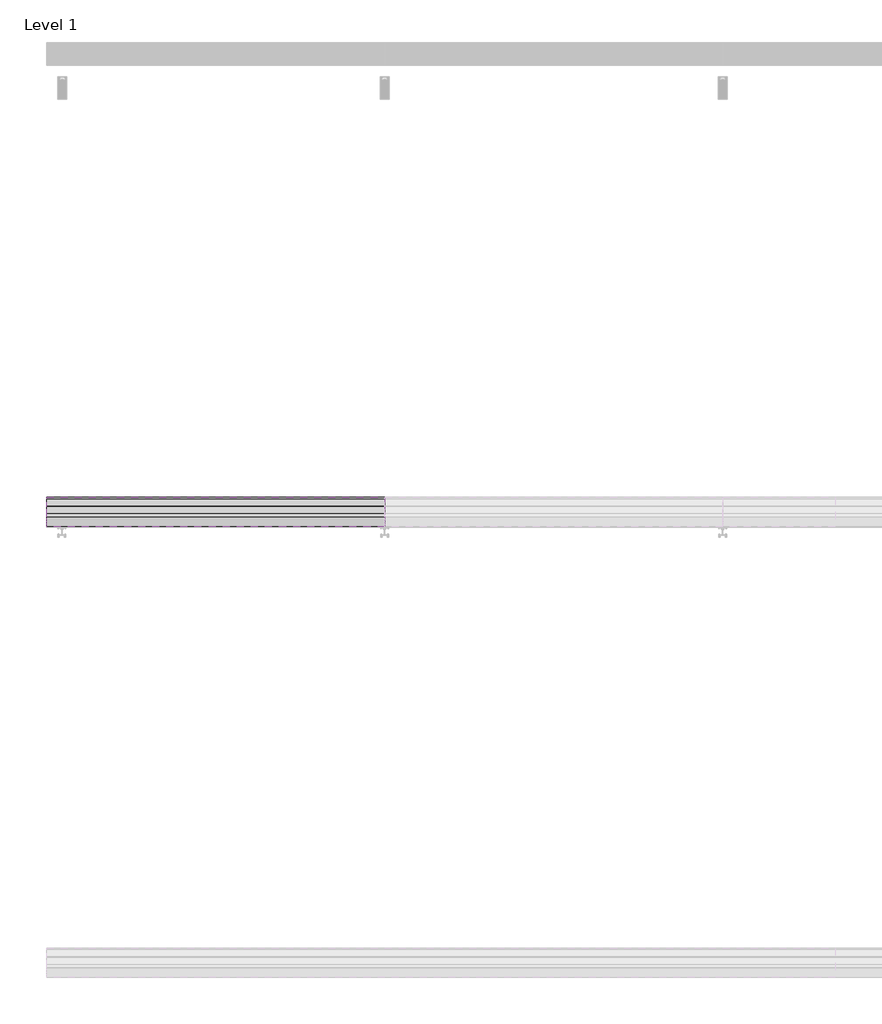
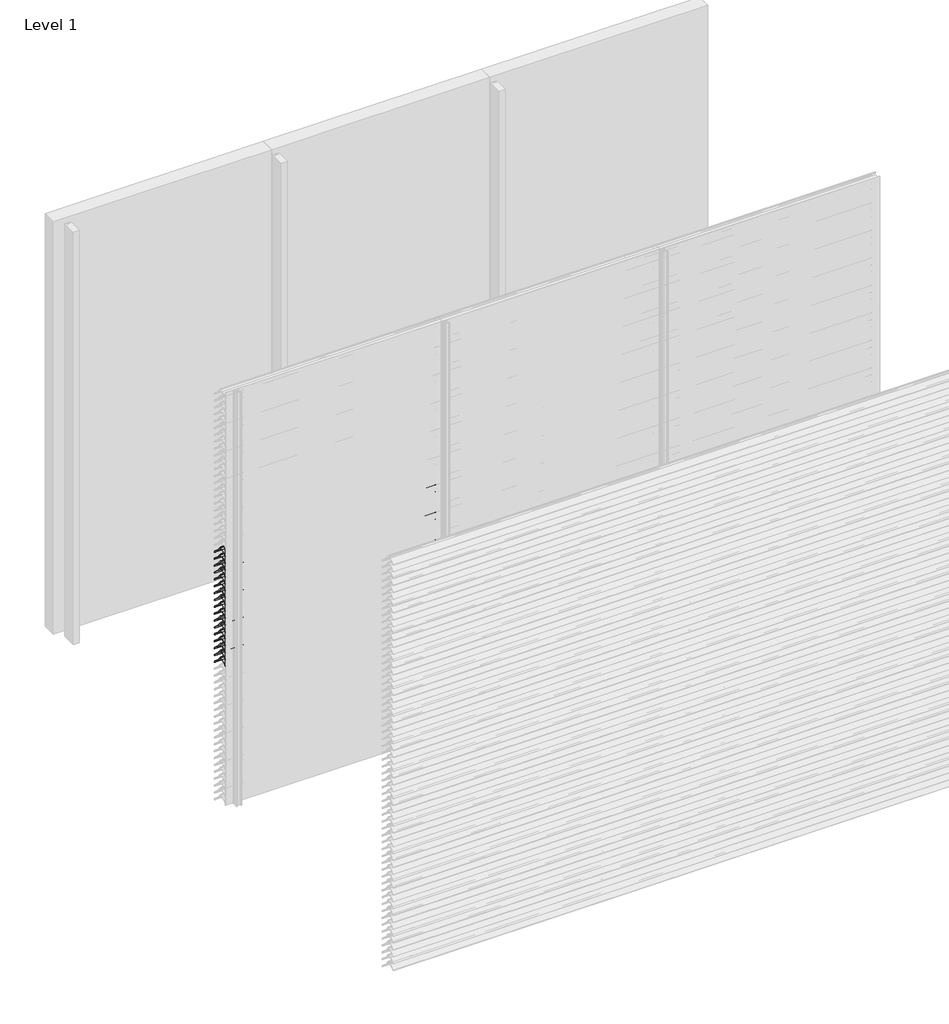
# One storey, part 42 of 173: 17 proxies.
"""IFC4 building model written with IfcOpenShell, lengths in millimetres."""

from ifc_helpers import new_model, si_unit, point, frame, frame_2d, origin, place, context, project, spatial, polyline, circle_curve, trimmed, segment, composite_curve, outline, extrude, element, save

model = new_model("IFC4")

# Units and contexts
model_context = context("Model", 3, world=origin())
ifc_project = project(units=[si_unit("LENGTHUNIT", "METRE", prefix="MILLI")], contexts=[model_context])

# Site, building, storey
site = spatial("IfcSite", under=ifc_project)
building = spatial("IfcBuilding", under=site)
storey = spatial("IfcBuildingStorey", under=building, Name="Level 1", Elevation=0.0)

# Proxies
placement = place(None, origin())
element("IfcBuildingElementProxy", 1, Name="Wall Sweeps", at=placement, inside=storey, context=model_context, shape_type="SweptSolid", body=[
    extrude(outline(composite_curve([segment(polyline([(-41998.0, 1809.1474905), (-41998.0, 1811.6227417)]), True, "CONTINUOUS"), segment(trimmed(circle_curve(frame_2d((-41951.2682172, 1766.2200208)), 65.1557103), [point((-41998.0, 1811.6227417))], [point((-41954.4014323, 1831.3003524))], False, "CARTESIAN"), True, "CONTINUOUS"), segment(polyline([(-41954.4014323, 1831.3003524), (-41934.8315836, 1831.3003524)]), True, "CONTINUOUS"), segment(trimmed(circle_curve(frame_2d((-41732.7329489, 1978.5533172)), 250.0545817), [point((-41934.8315836, 1831.3003524))], [point((-41941.4452143, 1840.8344583))], False, "CARTESIAN"), True, "CONTINUOUS"), segment(trimmed(circle_curve(frame_2d((-41953.2981792, 1835.1737835)), 13.1352966), [point((-41941.4452143, 1840.8344583))], [point((-41953.8171475, 1848.298824))], True, "CARTESIAN"), True, "CONTINUOUS"), segment(polyline([(-41953.8171475, 1848.298824), (-41953.8171475, 1850.0)]), True, "CONTINUOUS"), segment(trimmed(circle_curve(frame_2d((-41953.2981792, 1835.1737835)), 14.8352966), [point((-41953.8171475, 1850.0))], [point((-41939.9637661, 1841.6760487))], False, "CARTESIAN"), True, "CONTINUOUS"), segment(trimmed(circle_curve(frame_2d((-41732.7329489, 1978.5533172)), 248.3545817), [point((-41939.9637661, 1841.6760487))], [point((-41873.8787895, 1774.2059416))], True, "CARTESIAN"), True, "CONTINUOUS"), segment(trimmed(circle_curve(frame_2d((-41883.8147537, 1761.6649442)), 16.0), [point((-41873.8787895, 1774.2059416))], [point((-41867.8648347, 1760.4))], False, "CARTESIAN"), True, "CONTINUOUS"), segment(polyline([(-41867.8648347, 1760.4), (-41869.6712069, 1760.4)]), True, "CONTINUOUS"), segment(trimmed(circle_curve(frame_2d((-41883.8147537, 1761.6649442)), 14.2), [point((-41869.6712069, 1760.4))], [point((-41874.9518628, 1772.7594998))], True, "CARTESIAN"), True, "CONTINUOUS"), segment(trimmed(circle_curve(frame_2d((-41732.7329489, 1978.5533172)), 250.1545817), [point((-41874.9518628, 1772.7594998))], [point((-41933.7064024, 1829.6003524))], False, "CARTESIAN"), True, "CONTINUOUS"), segment(polyline([(-41933.7064024, 1829.6003524), (-41954.3602632, 1829.6003524)]), True, "CONTINUOUS"), segment(trimmed(circle_curve(frame_2d((-41951.2682172, 1766.2200208)), 63.4557103), [point((-41954.3602632, 1829.6003524))], [point((-41998.0, 1809.1474905))], True, "CARTESIAN"), True, "CONTINUOUS")], self_intersect=False)), frame((0.0, 0.0, 0.0), z_axis=(1.0, 0.0, 0.0), x_axis=(0.0, 1.0, 0.0)), (0.0, 0.0, 1.0), 1500.0),
])
element("IfcBuildingElementProxy", 2, Name="Wall Sweeps", at=placement, inside=storey, context=model_context, shape_type="SweptSolid", body=[
    extrude(outline(composite_curve([segment(polyline([(-41998.0, 1759.1474905), (-41998.0, 1761.6227417)]), True, "CONTINUOUS"), segment(trimmed(circle_curve(frame_2d((-41951.2682172, 1716.2200208)), 65.1557103), [point((-41998.0, 1761.6227417))], [point((-41954.4014323, 1781.3003524))], False, "CARTESIAN"), True, "CONTINUOUS"), segment(polyline([(-41954.4014323, 1781.3003524), (-41934.8315836, 1781.3003524)]), True, "CONTINUOUS"), segment(trimmed(circle_curve(frame_2d((-41732.7329489, 1928.5533172)), 250.0545817), [point((-41934.8315836, 1781.3003524))], [point((-41941.4452143, 1790.8344583))], False, "CARTESIAN"), True, "CONTINUOUS"), segment(trimmed(circle_curve(frame_2d((-41953.2981792, 1785.1737835)), 13.1352966), [point((-41941.4452143, 1790.8344583))], [point((-41953.8171475, 1798.298824))], True, "CARTESIAN"), True, "CONTINUOUS"), segment(polyline([(-41953.8171475, 1798.298824), (-41953.8171475, 1800.0)]), True, "CONTINUOUS"), segment(trimmed(circle_curve(frame_2d((-41953.2981792, 1785.1737835)), 14.8352966), [point((-41953.8171475, 1800.0))], [point((-41939.9637661, 1791.6760487))], False, "CARTESIAN"), True, "CONTINUOUS"), segment(trimmed(circle_curve(frame_2d((-41732.7329489, 1928.5533172)), 248.3545817), [point((-41939.9637661, 1791.6760487))], [point((-41873.8787895, 1724.2059416))], True, "CARTESIAN"), True, "CONTINUOUS"), segment(trimmed(circle_curve(frame_2d((-41883.8147537, 1711.6649442)), 16.0), [point((-41873.8787895, 1724.2059416))], [point((-41867.8648347, 1710.4))], False, "CARTESIAN"), True, "CONTINUOUS"), segment(polyline([(-41867.8648347, 1710.4), (-41869.6712069, 1710.4)]), True, "CONTINUOUS"), segment(trimmed(circle_curve(frame_2d((-41883.8147537, 1711.6649442)), 14.2), [point((-41869.6712069, 1710.4))], [point((-41874.9518628, 1722.7594998))], True, "CARTESIAN"), True, "CONTINUOUS"), segment(trimmed(circle_curve(frame_2d((-41732.7329489, 1928.5533172)), 250.1545817), [point((-41874.9518628, 1722.7594998))], [point((-41933.7064024, 1779.6003524))], False, "CARTESIAN"), True, "CONTINUOUS"), segment(polyline([(-41933.7064024, 1779.6003524), (-41954.3602632, 1779.6003524)]), True, "CONTINUOUS"), segment(trimmed(circle_curve(frame_2d((-41951.2682172, 1716.2200208)), 63.4557103), [point((-41954.3602632, 1779.6003524))], [point((-41998.0, 1759.1474905))], True, "CARTESIAN"), True, "CONTINUOUS")], self_intersect=False)), frame((0.0, 0.0, 0.0), z_axis=(1.0, 0.0, 0.0), x_axis=(0.0, 1.0, 0.0)), (0.0, 0.0, 1.0), 1500.0),
])
element("IfcBuildingElementProxy", 3, Name="Wall Sweeps", at=placement, inside=storey, context=model_context, shape_type="SweptSolid", body=[
    extrude(outline(composite_curve([segment(polyline([(-41998.0, 1709.1474905), (-41998.0, 1711.6227417)]), True, "CONTINUOUS"), segment(trimmed(circle_curve(frame_2d((-41951.2682172, 1666.2200208)), 65.1557103), [point((-41998.0, 1711.6227417))], [point((-41954.4014323, 1731.3003524))], False, "CARTESIAN"), True, "CONTINUOUS"), segment(polyline([(-41954.4014323, 1731.3003524), (-41934.8315836, 1731.3003524)]), True, "CONTINUOUS"), segment(trimmed(circle_curve(frame_2d((-41732.7329489, 1878.5533172)), 250.0545817), [point((-41934.8315836, 1731.3003524))], [point((-41941.4452143, 1740.8344583))], False, "CARTESIAN"), True, "CONTINUOUS"), segment(trimmed(circle_curve(frame_2d((-41953.2981792, 1735.1737835)), 13.1352966), [point((-41941.4452143, 1740.8344583))], [point((-41953.8171475, 1748.298824))], True, "CARTESIAN"), True, "CONTINUOUS"), segment(polyline([(-41953.8171475, 1748.298824), (-41953.8171475, 1750.0)]), True, "CONTINUOUS"), segment(trimmed(circle_curve(frame_2d((-41953.2981792, 1735.1737835)), 14.8352966), [point((-41953.8171475, 1750.0))], [point((-41939.9637661, 1741.6760487))], False, "CARTESIAN"), True, "CONTINUOUS"), segment(trimmed(circle_curve(frame_2d((-41732.7329489, 1878.5533172)), 248.3545817), [point((-41939.9637661, 1741.6760487))], [point((-41873.8787895, 1674.2059416))], True, "CARTESIAN"), True, "CONTINUOUS"), segment(trimmed(circle_curve(frame_2d((-41883.8147537, 1661.6649442)), 16.0), [point((-41873.8787895, 1674.2059416))], [point((-41867.8648347, 1660.4))], False, "CARTESIAN"), True, "CONTINUOUS"), segment(polyline([(-41867.8648347, 1660.4), (-41869.6712069, 1660.4)]), True, "CONTINUOUS"), segment(trimmed(circle_curve(frame_2d((-41883.8147537, 1661.6649442)), 14.2), [point((-41869.6712069, 1660.4))], [point((-41874.9518628, 1672.7594998))], True, "CARTESIAN"), True, "CONTINUOUS"), segment(trimmed(circle_curve(frame_2d((-41732.7329489, 1878.5533172)), 250.1545817), [point((-41874.9518628, 1672.7594998))], [point((-41933.7064024, 1729.6003524))], False, "CARTESIAN"), True, "CONTINUOUS"), segment(polyline([(-41933.7064024, 1729.6003524), (-41954.3602632, 1729.6003524)]), True, "CONTINUOUS"), segment(trimmed(circle_curve(frame_2d((-41951.2682172, 1666.2200208)), 63.4557103), [point((-41954.3602632, 1729.6003524))], [point((-41998.0, 1709.1474905))], True, "CARTESIAN"), True, "CONTINUOUS")], self_intersect=False)), frame((0.0, 0.0, 0.0), z_axis=(1.0, 0.0, 0.0), x_axis=(0.0, 1.0, 0.0)), (0.0, 0.0, 1.0), 1500.0),
])
element("IfcBuildingElementProxy", 4, Name="Wall Sweeps", at=placement, inside=storey, context=model_context, shape_type="SweptSolid", body=[
    extrude(outline(composite_curve([segment(polyline([(-41998.0, 1659.1474905), (-41998.0, 1661.6227417)]), True, "CONTINUOUS"), segment(trimmed(circle_curve(frame_2d((-41951.2682172, 1616.2200208)), 65.1557103), [point((-41998.0, 1661.6227417))], [point((-41954.4014323, 1681.3003524))], False, "CARTESIAN"), True, "CONTINUOUS"), segment(polyline([(-41954.4014323, 1681.3003524), (-41934.8315836, 1681.3003524)]), True, "CONTINUOUS"), segment(trimmed(circle_curve(frame_2d((-41732.7329489, 1828.5533172)), 250.0545817), [point((-41934.8315836, 1681.3003524))], [point((-41941.4452143, 1690.8344583))], False, "CARTESIAN"), True, "CONTINUOUS"), segment(trimmed(circle_curve(frame_2d((-41953.2981792, 1685.1737835)), 13.1352966), [point((-41941.4452143, 1690.8344583))], [point((-41953.8171475, 1698.298824))], True, "CARTESIAN"), True, "CONTINUOUS"), segment(polyline([(-41953.8171475, 1698.298824), (-41953.8171475, 1700.0)]), True, "CONTINUOUS"), segment(trimmed(circle_curve(frame_2d((-41953.2981792, 1685.1737835)), 14.8352966), [point((-41953.8171475, 1700.0))], [point((-41939.9637661, 1691.6760487))], False, "CARTESIAN"), True, "CONTINUOUS"), segment(trimmed(circle_curve(frame_2d((-41732.7329489, 1828.5533172)), 248.3545817), [point((-41939.9637661, 1691.6760487))], [point((-41873.8787895, 1624.2059416))], True, "CARTESIAN"), True, "CONTINUOUS"), segment(trimmed(circle_curve(frame_2d((-41883.8147537, 1611.6649442)), 16.0), [point((-41873.8787895, 1624.2059416))], [point((-41867.8648347, 1610.4))], False, "CARTESIAN"), True, "CONTINUOUS"), segment(polyline([(-41867.8648347, 1610.4), (-41869.6712069, 1610.4)]), True, "CONTINUOUS"), segment(trimmed(circle_curve(frame_2d((-41883.8147537, 1611.6649442)), 14.2), [point((-41869.6712069, 1610.4))], [point((-41874.9518628, 1622.7594998))], True, "CARTESIAN"), True, "CONTINUOUS"), segment(trimmed(circle_curve(frame_2d((-41732.7329489, 1828.5533172)), 250.1545817), [point((-41874.9518628, 1622.7594998))], [point((-41933.7064024, 1679.6003524))], False, "CARTESIAN"), True, "CONTINUOUS"), segment(polyline([(-41933.7064024, 1679.6003524), (-41954.3602632, 1679.6003524)]), True, "CONTINUOUS"), segment(trimmed(circle_curve(frame_2d((-41951.2682172, 1616.2200208)), 63.4557103), [point((-41954.3602632, 1679.6003524))], [point((-41998.0, 1659.1474905))], True, "CARTESIAN"), True, "CONTINUOUS")], self_intersect=False)), frame((0.0, 0.0, 0.0), z_axis=(1.0, 0.0, 0.0), x_axis=(0.0, 1.0, 0.0)), (0.0, 0.0, 1.0), 1500.0),
])
element("IfcBuildingElementProxy", 5, Name="Wall Sweeps", at=placement, inside=storey, context=model_context, shape_type="SweptSolid", body=[
    extrude(outline(composite_curve([segment(polyline([(-41998.0, 1609.1474905), (-41998.0, 1611.6227417)]), True, "CONTINUOUS"), segment(trimmed(circle_curve(frame_2d((-41951.2682172, 1566.2200208)), 65.1557103), [point((-41998.0, 1611.6227417))], [point((-41954.4014323, 1631.3003524))], False, "CARTESIAN"), True, "CONTINUOUS"), segment(polyline([(-41954.4014323, 1631.3003524), (-41934.8315836, 1631.3003524)]), True, "CONTINUOUS"), segment(trimmed(circle_curve(frame_2d((-41732.7329489, 1778.5533172)), 250.0545817), [point((-41934.8315836, 1631.3003524))], [point((-41941.4452143, 1640.8344583))], False, "CARTESIAN"), True, "CONTINUOUS"), segment(trimmed(circle_curve(frame_2d((-41953.2981792, 1635.1737835)), 13.1352966), [point((-41941.4452143, 1640.8344583))], [point((-41953.8171475, 1648.298824))], True, "CARTESIAN"), True, "CONTINUOUS"), segment(polyline([(-41953.8171475, 1648.298824), (-41953.8171475, 1650.0)]), True, "CONTINUOUS"), segment(trimmed(circle_curve(frame_2d((-41953.2981792, 1635.1737835)), 14.8352966), [point((-41953.8171475, 1650.0))], [point((-41939.9637661, 1641.6760487))], False, "CARTESIAN"), True, "CONTINUOUS"), segment(trimmed(circle_curve(frame_2d((-41732.7329489, 1778.5533172)), 248.3545817), [point((-41939.9637661, 1641.6760487))], [point((-41873.8787895, 1574.2059416))], True, "CARTESIAN"), True, "CONTINUOUS"), segment(trimmed(circle_curve(frame_2d((-41883.8147537, 1561.6649442)), 16.0), [point((-41873.8787895, 1574.2059416))], [point((-41867.8648347, 1560.4))], False, "CARTESIAN"), True, "CONTINUOUS"), segment(polyline([(-41867.8648347, 1560.4), (-41869.6712069, 1560.4)]), True, "CONTINUOUS"), segment(trimmed(circle_curve(frame_2d((-41883.8147537, 1561.6649442)), 14.2), [point((-41869.6712069, 1560.4))], [point((-41874.9518628, 1572.7594998))], True, "CARTESIAN"), True, "CONTINUOUS"), segment(trimmed(circle_curve(frame_2d((-41732.7329489, 1778.5533172)), 250.1545817), [point((-41874.9518628, 1572.7594998))], [point((-41933.7064024, 1629.6003524))], False, "CARTESIAN"), True, "CONTINUOUS"), segment(polyline([(-41933.7064024, 1629.6003524), (-41954.3602632, 1629.6003524)]), True, "CONTINUOUS"), segment(trimmed(circle_curve(frame_2d((-41951.2682172, 1566.2200208)), 63.4557103), [point((-41954.3602632, 1629.6003524))], [point((-41998.0, 1609.1474905))], True, "CARTESIAN"), True, "CONTINUOUS")], self_intersect=False)), frame((0.0, 0.0, 0.0), z_axis=(1.0, 0.0, 0.0), x_axis=(0.0, 1.0, 0.0)), (0.0, 0.0, 1.0), 1500.0),
])
element("IfcBuildingElementProxy", 6, Name="Wall Sweeps", at=placement, inside=storey, context=model_context, shape_type="SweptSolid", body=[
    extrude(outline(composite_curve([segment(polyline([(-41998.0, 1559.1474905), (-41998.0, 1561.6227417)]), True, "CONTINUOUS"), segment(trimmed(circle_curve(frame_2d((-41951.2682172, 1516.2200208)), 65.1557103), [point((-41998.0, 1561.6227417))], [point((-41954.4014323, 1581.3003524))], False, "CARTESIAN"), True, "CONTINUOUS"), segment(polyline([(-41954.4014323, 1581.3003524), (-41934.8315836, 1581.3003524)]), True, "CONTINUOUS"), segment(trimmed(circle_curve(frame_2d((-41732.7329489, 1728.5533172)), 250.0545817), [point((-41934.8315836, 1581.3003524))], [point((-41941.4452143, 1590.8344583))], False, "CARTESIAN"), True, "CONTINUOUS"), segment(trimmed(circle_curve(frame_2d((-41953.2981792, 1585.1737835)), 13.1352966), [point((-41941.4452143, 1590.8344583))], [point((-41953.8171475, 1598.298824))], True, "CARTESIAN"), True, "CONTINUOUS"), segment(polyline([(-41953.8171475, 1598.298824), (-41953.8171475, 1600.0)]), True, "CONTINUOUS"), segment(trimmed(circle_curve(frame_2d((-41953.2981792, 1585.1737835)), 14.8352966), [point((-41953.8171475, 1600.0))], [point((-41939.9637661, 1591.6760487))], False, "CARTESIAN"), True, "CONTINUOUS"), segment(trimmed(circle_curve(frame_2d((-41732.7329489, 1728.5533172)), 248.3545817), [point((-41939.9637661, 1591.6760487))], [point((-41873.8787895, 1524.2059416))], True, "CARTESIAN"), True, "CONTINUOUS"), segment(trimmed(circle_curve(frame_2d((-41883.8147537, 1511.6649442)), 16.0), [point((-41873.8787895, 1524.2059416))], [point((-41867.8648347, 1510.4))], False, "CARTESIAN"), True, "CONTINUOUS"), segment(polyline([(-41867.8648347, 1510.4), (-41869.6712069, 1510.4)]), True, "CONTINUOUS"), segment(trimmed(circle_curve(frame_2d((-41883.8147537, 1511.6649442)), 14.2), [point((-41869.6712069, 1510.4))], [point((-41874.9518628, 1522.7594998))], True, "CARTESIAN"), True, "CONTINUOUS"), segment(trimmed(circle_curve(frame_2d((-41732.7329489, 1728.5533172)), 250.1545817), [point((-41874.9518628, 1522.7594998))], [point((-41933.7064024, 1579.6003524))], False, "CARTESIAN"), True, "CONTINUOUS"), segment(polyline([(-41933.7064024, 1579.6003524), (-41954.3602632, 1579.6003524)]), True, "CONTINUOUS"), segment(trimmed(circle_curve(frame_2d((-41951.2682172, 1516.2200208)), 63.4557103), [point((-41954.3602632, 1579.6003524))], [point((-41998.0, 1559.1474905))], True, "CARTESIAN"), True, "CONTINUOUS")], self_intersect=False)), frame((0.0, 0.0, 0.0), z_axis=(1.0, 0.0, 0.0), x_axis=(0.0, 1.0, 0.0)), (0.0, 0.0, 1.0), 1500.0),
])
element("IfcBuildingElementProxy", 7, Name="Wall Sweeps", at=placement, inside=storey, context=model_context, shape_type="SweptSolid", body=[
    extrude(outline(composite_curve([segment(polyline([(-41998.0, 1509.1474905), (-41998.0, 1511.6227417)]), True, "CONTINUOUS"), segment(trimmed(circle_curve(frame_2d((-41951.2682172, 1466.2200208)), 65.1557103), [point((-41998.0, 1511.6227417))], [point((-41954.4014323, 1531.3003524))], False, "CARTESIAN"), True, "CONTINUOUS"), segment(polyline([(-41954.4014323, 1531.3003524), (-41934.8315836, 1531.3003524)]), True, "CONTINUOUS"), segment(trimmed(circle_curve(frame_2d((-41732.7329489, 1678.5533172)), 250.0545817), [point((-41934.8315836, 1531.3003524))], [point((-41941.4452143, 1540.8344583))], False, "CARTESIAN"), True, "CONTINUOUS"), segment(trimmed(circle_curve(frame_2d((-41953.2981792, 1535.1737835)), 13.1352966), [point((-41941.4452143, 1540.8344583))], [point((-41953.8171475, 1548.298824))], True, "CARTESIAN"), True, "CONTINUOUS"), segment(polyline([(-41953.8171475, 1548.298824), (-41953.8171475, 1550.0)]), True, "CONTINUOUS"), segment(trimmed(circle_curve(frame_2d((-41953.2981792, 1535.1737835)), 14.8352966), [point((-41953.8171475, 1550.0))], [point((-41939.9637661, 1541.6760487))], False, "CARTESIAN"), True, "CONTINUOUS"), segment(trimmed(circle_curve(frame_2d((-41732.7329489, 1678.5533172)), 248.3545817), [point((-41939.9637661, 1541.6760487))], [point((-41873.8787895, 1474.2059416))], True, "CARTESIAN"), True, "CONTINUOUS"), segment(trimmed(circle_curve(frame_2d((-41883.8147537, 1461.6649442)), 16.0), [point((-41873.8787895, 1474.2059416))], [point((-41867.8648347, 1460.4))], False, "CARTESIAN"), True, "CONTINUOUS"), segment(polyline([(-41867.8648347, 1460.4), (-41869.6712069, 1460.4)]), True, "CONTINUOUS"), segment(trimmed(circle_curve(frame_2d((-41883.8147537, 1461.6649442)), 14.2), [point((-41869.6712069, 1460.4))], [point((-41874.9518628, 1472.7594998))], True, "CARTESIAN"), True, "CONTINUOUS"), segment(trimmed(circle_curve(frame_2d((-41732.7329489, 1678.5533172)), 250.1545817), [point((-41874.9518628, 1472.7594998))], [point((-41933.7064024, 1529.6003524))], False, "CARTESIAN"), True, "CONTINUOUS"), segment(polyline([(-41933.7064024, 1529.6003524), (-41954.3602632, 1529.6003524)]), True, "CONTINUOUS"), segment(trimmed(circle_curve(frame_2d((-41951.2682172, 1466.2200208)), 63.4557103), [point((-41954.3602632, 1529.6003524))], [point((-41998.0, 1509.1474905))], True, "CARTESIAN"), True, "CONTINUOUS")], self_intersect=False)), frame((0.0, 0.0, 0.0), z_axis=(1.0, 0.0, 0.0), x_axis=(0.0, 1.0, 0.0)), (0.0, 0.0, 1.0), 1500.0),
])
element("IfcBuildingElementProxy", 8, Name="Wall Sweeps", at=placement, inside=storey, context=model_context, shape_type="SweptSolid", body=[
    extrude(outline(composite_curve([segment(polyline([(-41998.0, 1459.1474905), (-41998.0, 1461.6227417)]), True, "CONTINUOUS"), segment(trimmed(circle_curve(frame_2d((-41951.2682172, 1416.2200208)), 65.1557103), [point((-41998.0, 1461.6227417))], [point((-41954.4014323, 1481.3003524))], False, "CARTESIAN"), True, "CONTINUOUS"), segment(polyline([(-41954.4014323, 1481.3003524), (-41934.8315836, 1481.3003524)]), True, "CONTINUOUS"), segment(trimmed(circle_curve(frame_2d((-41732.7329489, 1628.5533172)), 250.0545817), [point((-41934.8315836, 1481.3003524))], [point((-41941.4452143, 1490.8344583))], False, "CARTESIAN"), True, "CONTINUOUS"), segment(trimmed(circle_curve(frame_2d((-41953.2981792, 1485.1737835)), 13.1352966), [point((-41941.4452143, 1490.8344583))], [point((-41953.8171475, 1498.298824))], True, "CARTESIAN"), True, "CONTINUOUS"), segment(polyline([(-41953.8171475, 1498.298824), (-41953.8171475, 1500.0)]), True, "CONTINUOUS"), segment(trimmed(circle_curve(frame_2d((-41953.2981792, 1485.1737835)), 14.8352966), [point((-41953.8171475, 1500.0))], [point((-41939.9637661, 1491.6760487))], False, "CARTESIAN"), True, "CONTINUOUS"), segment(trimmed(circle_curve(frame_2d((-41732.7329489, 1628.5533172)), 248.3545817), [point((-41939.9637661, 1491.6760487))], [point((-41873.8787895, 1424.2059416))], True, "CARTESIAN"), True, "CONTINUOUS"), segment(trimmed(circle_curve(frame_2d((-41883.8147537, 1411.6649442)), 16.0), [point((-41873.8787895, 1424.2059416))], [point((-41867.8648347, 1410.4))], False, "CARTESIAN"), True, "CONTINUOUS"), segment(polyline([(-41867.8648347, 1410.4), (-41869.6712069, 1410.4)]), True, "CONTINUOUS"), segment(trimmed(circle_curve(frame_2d((-41883.8147537, 1411.6649442)), 14.2), [point((-41869.6712069, 1410.4))], [point((-41874.9518628, 1422.7594998))], True, "CARTESIAN"), True, "CONTINUOUS"), segment(trimmed(circle_curve(frame_2d((-41732.7329489, 1628.5533172)), 250.1545817), [point((-41874.9518628, 1422.7594998))], [point((-41933.7064024, 1479.6003524))], False, "CARTESIAN"), True, "CONTINUOUS"), segment(polyline([(-41933.7064024, 1479.6003524), (-41954.3602632, 1479.6003524)]), True, "CONTINUOUS"), segment(trimmed(circle_curve(frame_2d((-41951.2682172, 1416.2200208)), 63.4557103), [point((-41954.3602632, 1479.6003524))], [point((-41998.0, 1459.1474905))], True, "CARTESIAN"), True, "CONTINUOUS")], self_intersect=False)), frame((0.0, 0.0, 0.0), z_axis=(1.0, 0.0, 0.0), x_axis=(0.0, 1.0, 0.0)), (0.0, 0.0, 1.0), 1500.0),
])
element("IfcBuildingElementProxy", 9, Name="Wall Sweeps", at=placement, inside=storey, context=model_context, shape_type="SweptSolid", body=[
    extrude(outline(composite_curve([segment(polyline([(-41998.0, 1409.1474905), (-41998.0, 1411.6227417)]), True, "CONTINUOUS"), segment(trimmed(circle_curve(frame_2d((-41951.2682172, 1366.2200208)), 65.1557103), [point((-41998.0, 1411.6227417))], [point((-41954.4014323, 1431.3003524))], False, "CARTESIAN"), True, "CONTINUOUS"), segment(polyline([(-41954.4014323, 1431.3003524), (-41934.8315836, 1431.3003524)]), True, "CONTINUOUS"), segment(trimmed(circle_curve(frame_2d((-41732.7329489, 1578.5533172)), 250.0545817), [point((-41934.8315836, 1431.3003524))], [point((-41941.4452143, 1440.8344583))], False, "CARTESIAN"), True, "CONTINUOUS"), segment(trimmed(circle_curve(frame_2d((-41953.2981792, 1435.1737835)), 13.1352966), [point((-41941.4452143, 1440.8344583))], [point((-41953.8171475, 1448.298824))], True, "CARTESIAN"), True, "CONTINUOUS"), segment(polyline([(-41953.8171475, 1448.298824), (-41953.8171475, 1450.0)]), True, "CONTINUOUS"), segment(trimmed(circle_curve(frame_2d((-41953.2981792, 1435.1737835)), 14.8352966), [point((-41953.8171475, 1450.0))], [point((-41939.9637661, 1441.6760487))], False, "CARTESIAN"), True, "CONTINUOUS"), segment(trimmed(circle_curve(frame_2d((-41732.7329489, 1578.5533172)), 248.3545817), [point((-41939.9637661, 1441.6760487))], [point((-41873.8787895, 1374.2059416))], True, "CARTESIAN"), True, "CONTINUOUS"), segment(trimmed(circle_curve(frame_2d((-41883.8147537, 1361.6649442)), 16.0), [point((-41873.8787895, 1374.2059416))], [point((-41867.8648347, 1360.4))], False, "CARTESIAN"), True, "CONTINUOUS"), segment(polyline([(-41867.8648347, 1360.4), (-41869.6712069, 1360.4)]), True, "CONTINUOUS"), segment(trimmed(circle_curve(frame_2d((-41883.8147537, 1361.6649442)), 14.2), [point((-41869.6712069, 1360.4))], [point((-41874.9518628, 1372.7594998))], True, "CARTESIAN"), True, "CONTINUOUS"), segment(trimmed(circle_curve(frame_2d((-41732.7329489, 1578.5533172)), 250.1545817), [point((-41874.9518628, 1372.7594998))], [point((-41933.7064024, 1429.6003524))], False, "CARTESIAN"), True, "CONTINUOUS"), segment(polyline([(-41933.7064024, 1429.6003524), (-41954.3602632, 1429.6003524)]), True, "CONTINUOUS"), segment(trimmed(circle_curve(frame_2d((-41951.2682172, 1366.2200208)), 63.4557103), [point((-41954.3602632, 1429.6003524))], [point((-41998.0, 1409.1474905))], True, "CARTESIAN"), True, "CONTINUOUS")], self_intersect=False)), frame((0.0, 0.0, 0.0), z_axis=(1.0, 0.0, 0.0), x_axis=(0.0, 1.0, 0.0)), (0.0, 0.0, 1.0), 1500.0),
])
element("IfcBuildingElementProxy", 10, Name="Wall Sweeps", at=placement, inside=storey, context=model_context, shape_type="SweptSolid", body=[
    extrude(outline(composite_curve([segment(polyline([(-41998.0, 1359.1474905), (-41998.0, 1361.6227417)]), True, "CONTINUOUS"), segment(trimmed(circle_curve(frame_2d((-41951.2682172, 1316.2200208)), 65.1557103), [point((-41998.0, 1361.6227417))], [point((-41954.4014323, 1381.3003524))], False, "CARTESIAN"), True, "CONTINUOUS"), segment(polyline([(-41954.4014323, 1381.3003524), (-41934.8315836, 1381.3003524)]), True, "CONTINUOUS"), segment(trimmed(circle_curve(frame_2d((-41732.7329489, 1528.5533172)), 250.0545817), [point((-41934.8315836, 1381.3003524))], [point((-41941.4452143, 1390.8344583))], False, "CARTESIAN"), True, "CONTINUOUS"), segment(trimmed(circle_curve(frame_2d((-41953.2981792, 1385.1737835)), 13.1352966), [point((-41941.4452143, 1390.8344583))], [point((-41953.8171475, 1398.298824))], True, "CARTESIAN"), True, "CONTINUOUS"), segment(polyline([(-41953.8171475, 1398.298824), (-41953.8171475, 1400.0)]), True, "CONTINUOUS"), segment(trimmed(circle_curve(frame_2d((-41953.2981792, 1385.1737835)), 14.8352966), [point((-41953.8171475, 1400.0))], [point((-41939.9637661, 1391.6760487))], False, "CARTESIAN"), True, "CONTINUOUS"), segment(trimmed(circle_curve(frame_2d((-41732.7329489, 1528.5533172)), 248.3545817), [point((-41939.9637661, 1391.6760487))], [point((-41873.8787895, 1324.2059416))], True, "CARTESIAN"), True, "CONTINUOUS"), segment(trimmed(circle_curve(frame_2d((-41883.8147537, 1311.6649442)), 16.0), [point((-41873.8787895, 1324.2059416))], [point((-41867.8648347, 1310.4))], False, "CARTESIAN"), True, "CONTINUOUS"), segment(polyline([(-41867.8648347, 1310.4), (-41869.6712069, 1310.4)]), True, "CONTINUOUS"), segment(trimmed(circle_curve(frame_2d((-41883.8147537, 1311.6649442)), 14.2), [point((-41869.6712069, 1310.4))], [point((-41874.9518628, 1322.7594998))], True, "CARTESIAN"), True, "CONTINUOUS"), segment(trimmed(circle_curve(frame_2d((-41732.7329489, 1528.5533172)), 250.1545817), [point((-41874.9518628, 1322.7594998))], [point((-41933.7064024, 1379.6003524))], False, "CARTESIAN"), True, "CONTINUOUS"), segment(polyline([(-41933.7064024, 1379.6003524), (-41954.3602632, 1379.6003524)]), True, "CONTINUOUS"), segment(trimmed(circle_curve(frame_2d((-41951.2682172, 1316.2200208)), 63.4557103), [point((-41954.3602632, 1379.6003524))], [point((-41998.0, 1359.1474905))], True, "CARTESIAN"), True, "CONTINUOUS")], self_intersect=False)), frame((0.0, 0.0, 0.0), z_axis=(1.0, 0.0, 0.0), x_axis=(0.0, 1.0, 0.0)), (0.0, 0.0, 1.0), 1500.0),
])
element("IfcBuildingElementProxy", 11, Name="Wall Sweeps", at=placement, inside=storey, context=model_context, shape_type="SweptSolid", body=[
    extrude(outline(composite_curve([segment(polyline([(-41998.0, 1309.1474905), (-41998.0, 1311.6227417)]), True, "CONTINUOUS"), segment(trimmed(circle_curve(frame_2d((-41951.2682172, 1266.2200208)), 65.1557103), [point((-41998.0, 1311.6227417))], [point((-41954.4014323, 1331.3003524))], False, "CARTESIAN"), True, "CONTINUOUS"), segment(polyline([(-41954.4014323, 1331.3003524), (-41934.8315836, 1331.3003524)]), True, "CONTINUOUS"), segment(trimmed(circle_curve(frame_2d((-41732.7329489, 1478.5533172)), 250.0545817), [point((-41934.8315836, 1331.3003524))], [point((-41941.4452143, 1340.8344583))], False, "CARTESIAN"), True, "CONTINUOUS"), segment(trimmed(circle_curve(frame_2d((-41953.2981792, 1335.1737835)), 13.1352966), [point((-41941.4452143, 1340.8344583))], [point((-41953.8171475, 1348.298824))], True, "CARTESIAN"), True, "CONTINUOUS"), segment(polyline([(-41953.8171475, 1348.298824), (-41953.8171475, 1350.0)]), True, "CONTINUOUS"), segment(trimmed(circle_curve(frame_2d((-41953.2981792, 1335.1737835)), 14.8352966), [point((-41953.8171475, 1350.0))], [point((-41939.9637661, 1341.6760487))], False, "CARTESIAN"), True, "CONTINUOUS"), segment(trimmed(circle_curve(frame_2d((-41732.7329489, 1478.5533172)), 248.3545817), [point((-41939.9637661, 1341.6760487))], [point((-41873.8787895, 1274.2059416))], True, "CARTESIAN"), True, "CONTINUOUS"), segment(trimmed(circle_curve(frame_2d((-41883.8147537, 1261.6649442)), 16.0), [point((-41873.8787895, 1274.2059416))], [point((-41867.8648347, 1260.4))], False, "CARTESIAN"), True, "CONTINUOUS"), segment(polyline([(-41867.8648347, 1260.4), (-41869.6712069, 1260.4)]), True, "CONTINUOUS"), segment(trimmed(circle_curve(frame_2d((-41883.8147537, 1261.6649442)), 14.2), [point((-41869.6712069, 1260.4))], [point((-41874.9518628, 1272.7594998))], True, "CARTESIAN"), True, "CONTINUOUS"), segment(trimmed(circle_curve(frame_2d((-41732.7329489, 1478.5533172)), 250.1545817), [point((-41874.9518628, 1272.7594998))], [point((-41933.7064024, 1329.6003524))], False, "CARTESIAN"), True, "CONTINUOUS"), segment(polyline([(-41933.7064024, 1329.6003524), (-41954.3602632, 1329.6003524)]), True, "CONTINUOUS"), segment(trimmed(circle_curve(frame_2d((-41951.2682172, 1266.2200208)), 63.4557103), [point((-41954.3602632, 1329.6003524))], [point((-41998.0, 1309.1474905))], True, "CARTESIAN"), True, "CONTINUOUS")], self_intersect=False)), frame((0.0, 0.0, 0.0), z_axis=(1.0, 0.0, 0.0), x_axis=(0.0, 1.0, 0.0)), (0.0, 0.0, 1.0), 1500.0),
])
element("IfcBuildingElementProxy", 12, Name="Wall Sweeps", at=placement, inside=storey, context=model_context, shape_type="SweptSolid", body=[
    extrude(outline(composite_curve([segment(polyline([(-41998.0, 1259.1474905), (-41998.0, 1261.6227417)]), True, "CONTINUOUS"), segment(trimmed(circle_curve(frame_2d((-41951.2682172, 1216.2200208)), 65.1557103), [point((-41998.0, 1261.6227417))], [point((-41954.4014323, 1281.3003524))], False, "CARTESIAN"), True, "CONTINUOUS"), segment(polyline([(-41954.4014323, 1281.3003524), (-41934.8315836, 1281.3003524)]), True, "CONTINUOUS"), segment(trimmed(circle_curve(frame_2d((-41732.7329489, 1428.5533172)), 250.0545817), [point((-41934.8315836, 1281.3003524))], [point((-41941.4452143, 1290.8344583))], False, "CARTESIAN"), True, "CONTINUOUS"), segment(trimmed(circle_curve(frame_2d((-41953.2981792, 1285.1737835)), 13.1352966), [point((-41941.4452143, 1290.8344583))], [point((-41953.8171475, 1298.298824))], True, "CARTESIAN"), True, "CONTINUOUS"), segment(polyline([(-41953.8171475, 1298.298824), (-41953.8171475, 1300.0)]), True, "CONTINUOUS"), segment(trimmed(circle_curve(frame_2d((-41953.2981792, 1285.1737835)), 14.8352966), [point((-41953.8171475, 1300.0))], [point((-41939.9637661, 1291.6760487))], False, "CARTESIAN"), True, "CONTINUOUS"), segment(trimmed(circle_curve(frame_2d((-41732.7329489, 1428.5533172)), 248.3545817), [point((-41939.9637661, 1291.6760487))], [point((-41873.8787895, 1224.2059416))], True, "CARTESIAN"), True, "CONTINUOUS"), segment(trimmed(circle_curve(frame_2d((-41883.8147537, 1211.6649442)), 16.0), [point((-41873.8787895, 1224.2059416))], [point((-41867.8648347, 1210.4))], False, "CARTESIAN"), True, "CONTINUOUS"), segment(polyline([(-41867.8648347, 1210.4), (-41869.6712069, 1210.4)]), True, "CONTINUOUS"), segment(trimmed(circle_curve(frame_2d((-41883.8147537, 1211.6649442)), 14.2), [point((-41869.6712069, 1210.4))], [point((-41874.9518628, 1222.7594998))], True, "CARTESIAN"), True, "CONTINUOUS"), segment(trimmed(circle_curve(frame_2d((-41732.7329489, 1428.5533172)), 250.1545817), [point((-41874.9518628, 1222.7594998))], [point((-41933.7064024, 1279.6003524))], False, "CARTESIAN"), True, "CONTINUOUS"), segment(polyline([(-41933.7064024, 1279.6003524), (-41954.3602632, 1279.6003524)]), True, "CONTINUOUS"), segment(trimmed(circle_curve(frame_2d((-41951.2682172, 1216.2200208)), 63.4557103), [point((-41954.3602632, 1279.6003524))], [point((-41998.0, 1259.1474905))], True, "CARTESIAN"), True, "CONTINUOUS")], self_intersect=False)), frame((0.0, 0.0, 0.0), z_axis=(1.0, 0.0, 0.0), x_axis=(0.0, 1.0, 0.0)), (0.0, 0.0, 1.0), 1500.0),
])
element("IfcBuildingElementProxy", 13, Name="Wall Sweeps", at=placement, inside=storey, context=model_context, shape_type="SweptSolid", body=[
    extrude(outline(composite_curve([segment(polyline([(-41998.0, 1209.1474905), (-41998.0, 1211.6227417)]), True, "CONTINUOUS"), segment(trimmed(circle_curve(frame_2d((-41951.2682172, 1166.2200208)), 65.1557103), [point((-41998.0, 1211.6227417))], [point((-41954.4014323, 1231.3003524))], False, "CARTESIAN"), True, "CONTINUOUS"), segment(polyline([(-41954.4014323, 1231.3003524), (-41934.8315836, 1231.3003524)]), True, "CONTINUOUS"), segment(trimmed(circle_curve(frame_2d((-41732.7329489, 1378.5533172)), 250.0545817), [point((-41934.8315836, 1231.3003524))], [point((-41941.4452143, 1240.8344583))], False, "CARTESIAN"), True, "CONTINUOUS"), segment(trimmed(circle_curve(frame_2d((-41953.2981792, 1235.1737835)), 13.1352966), [point((-41941.4452143, 1240.8344583))], [point((-41953.8171475, 1248.298824))], True, "CARTESIAN"), True, "CONTINUOUS"), segment(polyline([(-41953.8171475, 1248.298824), (-41953.8171475, 1250.0)]), True, "CONTINUOUS"), segment(trimmed(circle_curve(frame_2d((-41953.2981792, 1235.1737835)), 14.8352966), [point((-41953.8171475, 1250.0))], [point((-41939.9637661, 1241.6760487))], False, "CARTESIAN"), True, "CONTINUOUS"), segment(trimmed(circle_curve(frame_2d((-41732.7329489, 1378.5533172)), 248.3545817), [point((-41939.9637661, 1241.6760487))], [point((-41873.8787895, 1174.2059416))], True, "CARTESIAN"), True, "CONTINUOUS"), segment(trimmed(circle_curve(frame_2d((-41883.8147537, 1161.6649442)), 16.0), [point((-41873.8787895, 1174.2059416))], [point((-41867.8648347, 1160.4))], False, "CARTESIAN"), True, "CONTINUOUS"), segment(polyline([(-41867.8648347, 1160.4), (-41869.6712069, 1160.4)]), True, "CONTINUOUS"), segment(trimmed(circle_curve(frame_2d((-41883.8147537, 1161.6649442)), 14.2), [point((-41869.6712069, 1160.4))], [point((-41874.9518628, 1172.7594998))], True, "CARTESIAN"), True, "CONTINUOUS"), segment(trimmed(circle_curve(frame_2d((-41732.7329489, 1378.5533172)), 250.1545817), [point((-41874.9518628, 1172.7594998))], [point((-41933.7064024, 1229.6003524))], False, "CARTESIAN"), True, "CONTINUOUS"), segment(polyline([(-41933.7064024, 1229.6003524), (-41954.3602632, 1229.6003524)]), True, "CONTINUOUS"), segment(trimmed(circle_curve(frame_2d((-41951.2682172, 1166.2200208)), 63.4557103), [point((-41954.3602632, 1229.6003524))], [point((-41998.0, 1209.1474905))], True, "CARTESIAN"), True, "CONTINUOUS")], self_intersect=False)), frame((0.0, 0.0, 0.0), z_axis=(1.0, 0.0, 0.0), x_axis=(0.0, 1.0, 0.0)), (0.0, 0.0, 1.0), 1500.0),
])
element("IfcBuildingElementProxy", 14, Name="Wall Sweeps", at=placement, inside=storey, context=model_context, shape_type="SweptSolid", body=[
    extrude(outline(composite_curve([segment(polyline([(-41998.0, 1159.1474905), (-41998.0, 1161.6227417)]), True, "CONTINUOUS"), segment(trimmed(circle_curve(frame_2d((-41951.2682172, 1116.2200208)), 65.1557103), [point((-41998.0, 1161.6227417))], [point((-41954.4014323, 1181.3003524))], False, "CARTESIAN"), True, "CONTINUOUS"), segment(polyline([(-41954.4014323, 1181.3003524), (-41934.8315836, 1181.3003524)]), True, "CONTINUOUS"), segment(trimmed(circle_curve(frame_2d((-41732.7329489, 1328.5533172)), 250.0545817), [point((-41934.8315836, 1181.3003524))], [point((-41941.4452143, 1190.8344583))], False, "CARTESIAN"), True, "CONTINUOUS"), segment(trimmed(circle_curve(frame_2d((-41953.2981792, 1185.1737835)), 13.1352966), [point((-41941.4452143, 1190.8344583))], [point((-41953.8171475, 1198.298824))], True, "CARTESIAN"), True, "CONTINUOUS"), segment(polyline([(-41953.8171475, 1198.298824), (-41953.8171475, 1200.0)]), True, "CONTINUOUS"), segment(trimmed(circle_curve(frame_2d((-41953.2981792, 1185.1737835)), 14.8352966), [point((-41953.8171475, 1200.0))], [point((-41939.9637661, 1191.6760487))], False, "CARTESIAN"), True, "CONTINUOUS"), segment(trimmed(circle_curve(frame_2d((-41732.7329489, 1328.5533172)), 248.3545817), [point((-41939.9637661, 1191.6760487))], [point((-41873.8787895, 1124.2059416))], True, "CARTESIAN"), True, "CONTINUOUS"), segment(trimmed(circle_curve(frame_2d((-41883.8147537, 1111.6649442)), 16.0), [point((-41873.8787895, 1124.2059416))], [point((-41867.8648347, 1110.4))], False, "CARTESIAN"), True, "CONTINUOUS"), segment(polyline([(-41867.8648347, 1110.4), (-41869.6712069, 1110.4)]), True, "CONTINUOUS"), segment(trimmed(circle_curve(frame_2d((-41883.8147537, 1111.6649442)), 14.2), [point((-41869.6712069, 1110.4))], [point((-41874.9518628, 1122.7594998))], True, "CARTESIAN"), True, "CONTINUOUS"), segment(trimmed(circle_curve(frame_2d((-41732.7329489, 1328.5533172)), 250.1545817), [point((-41874.9518628, 1122.7594998))], [point((-41933.7064024, 1179.6003524))], False, "CARTESIAN"), True, "CONTINUOUS"), segment(polyline([(-41933.7064024, 1179.6003524), (-41954.3602632, 1179.6003524)]), True, "CONTINUOUS"), segment(trimmed(circle_curve(frame_2d((-41951.2682172, 1116.2200208)), 63.4557103), [point((-41954.3602632, 1179.6003524))], [point((-41998.0, 1159.1474905))], True, "CARTESIAN"), True, "CONTINUOUS")], self_intersect=False)), frame((0.0, 0.0, 0.0), z_axis=(1.0, 0.0, 0.0), x_axis=(0.0, 1.0, 0.0)), (0.0, 0.0, 1.0), 1500.0),
])
element("IfcBuildingElementProxy", 15, Name="Wall Sweeps", at=placement, inside=storey, context=model_context, shape_type="SweptSolid", body=[
    extrude(outline(composite_curve([segment(polyline([(-41998.0, 1109.1474905), (-41998.0, 1111.6227417)]), True, "CONTINUOUS"), segment(trimmed(circle_curve(frame_2d((-41951.2682172, 1066.2200208)), 65.1557103), [point((-41998.0, 1111.6227417))], [point((-41954.4014323, 1131.3003524))], False, "CARTESIAN"), True, "CONTINUOUS"), segment(polyline([(-41954.4014323, 1131.3003524), (-41934.8315836, 1131.3003524)]), True, "CONTINUOUS"), segment(trimmed(circle_curve(frame_2d((-41732.7329489, 1278.5533172)), 250.0545817), [point((-41934.8315836, 1131.3003524))], [point((-41941.4452143, 1140.8344583))], False, "CARTESIAN"), True, "CONTINUOUS"), segment(trimmed(circle_curve(frame_2d((-41953.2981792, 1135.1737835)), 13.1352966), [point((-41941.4452143, 1140.8344583))], [point((-41953.8171475, 1148.298824))], True, "CARTESIAN"), True, "CONTINUOUS"), segment(polyline([(-41953.8171475, 1148.298824), (-41953.8171475, 1150.0)]), True, "CONTINUOUS"), segment(trimmed(circle_curve(frame_2d((-41953.2981792, 1135.1737835)), 14.8352966), [point((-41953.8171475, 1150.0))], [point((-41939.9637661, 1141.6760487))], False, "CARTESIAN"), True, "CONTINUOUS"), segment(trimmed(circle_curve(frame_2d((-41732.7329489, 1278.5533172)), 248.3545817), [point((-41939.9637661, 1141.6760487))], [point((-41873.8787895, 1074.2059416))], True, "CARTESIAN"), True, "CONTINUOUS"), segment(trimmed(circle_curve(frame_2d((-41883.8147537, 1061.6649442)), 16.0), [point((-41873.8787895, 1074.2059416))], [point((-41867.8648347, 1060.4))], False, "CARTESIAN"), True, "CONTINUOUS"), segment(polyline([(-41867.8648347, 1060.4), (-41869.6712069, 1060.4)]), True, "CONTINUOUS"), segment(trimmed(circle_curve(frame_2d((-41883.8147537, 1061.6649442)), 14.2), [point((-41869.6712069, 1060.4))], [point((-41874.9518628, 1072.7594998))], True, "CARTESIAN"), True, "CONTINUOUS"), segment(trimmed(circle_curve(frame_2d((-41732.7329489, 1278.5533172)), 250.1545817), [point((-41874.9518628, 1072.7594998))], [point((-41933.7064024, 1129.6003524))], False, "CARTESIAN"), True, "CONTINUOUS"), segment(polyline([(-41933.7064024, 1129.6003524), (-41954.3602632, 1129.6003524)]), True, "CONTINUOUS"), segment(trimmed(circle_curve(frame_2d((-41951.2682172, 1066.2200208)), 63.4557103), [point((-41954.3602632, 1129.6003524))], [point((-41998.0, 1109.1474905))], True, "CARTESIAN"), True, "CONTINUOUS")], self_intersect=False)), frame((0.0, 0.0, 0.0), z_axis=(1.0, 0.0, 0.0), x_axis=(0.0, 1.0, 0.0)), (0.0, 0.0, 1.0), 1500.0),
])
element("IfcBuildingElementProxy", 16, Name="Wall Sweeps", at=placement, inside=storey, context=model_context, shape_type="SweptSolid", body=[
    extrude(outline(composite_curve([segment(polyline([(-41998.0, 1059.1474905), (-41998.0, 1061.6227417)]), True, "CONTINUOUS"), segment(trimmed(circle_curve(frame_2d((-41951.2682172, 1016.2200208)), 65.1557103), [point((-41998.0, 1061.6227417))], [point((-41954.4014323, 1081.3003524))], False, "CARTESIAN"), True, "CONTINUOUS"), segment(polyline([(-41954.4014323, 1081.3003524), (-41934.8315836, 1081.3003524)]), True, "CONTINUOUS"), segment(trimmed(circle_curve(frame_2d((-41732.7329489, 1228.5533172)), 250.0545817), [point((-41934.8315836, 1081.3003524))], [point((-41941.4452143, 1090.8344583))], False, "CARTESIAN"), True, "CONTINUOUS"), segment(trimmed(circle_curve(frame_2d((-41953.2981792, 1085.1737835)), 13.1352966), [point((-41941.4452143, 1090.8344583))], [point((-41953.8171475, 1098.298824))], True, "CARTESIAN"), True, "CONTINUOUS"), segment(polyline([(-41953.8171475, 1098.298824), (-41953.8171475, 1100.0)]), True, "CONTINUOUS"), segment(trimmed(circle_curve(frame_2d((-41953.2981792, 1085.1737835)), 14.8352966), [point((-41953.8171475, 1100.0))], [point((-41939.9637661, 1091.6760487))], False, "CARTESIAN"), True, "CONTINUOUS"), segment(trimmed(circle_curve(frame_2d((-41732.7329489, 1228.5533172)), 248.3545817), [point((-41939.9637661, 1091.6760487))], [point((-41873.8787895, 1024.2059416))], True, "CARTESIAN"), True, "CONTINUOUS"), segment(trimmed(circle_curve(frame_2d((-41883.8147537, 1011.6649442)), 16.0), [point((-41873.8787895, 1024.2059416))], [point((-41867.8648347, 1010.4))], False, "CARTESIAN"), True, "CONTINUOUS"), segment(polyline([(-41867.8648347, 1010.4), (-41869.6712069, 1010.4)]), True, "CONTINUOUS"), segment(trimmed(circle_curve(frame_2d((-41883.8147537, 1011.6649442)), 14.2), [point((-41869.6712069, 1010.4))], [point((-41874.9518628, 1022.7594998))], True, "CARTESIAN"), True, "CONTINUOUS"), segment(trimmed(circle_curve(frame_2d((-41732.7329489, 1228.5533172)), 250.1545817), [point((-41874.9518628, 1022.7594998))], [point((-41933.7064024, 1079.6003524))], False, "CARTESIAN"), True, "CONTINUOUS"), segment(polyline([(-41933.7064024, 1079.6003524), (-41954.3602632, 1079.6003524)]), True, "CONTINUOUS"), segment(trimmed(circle_curve(frame_2d((-41951.2682172, 1016.2200208)), 63.4557103), [point((-41954.3602632, 1079.6003524))], [point((-41998.0, 1059.1474905))], True, "CARTESIAN"), True, "CONTINUOUS")], self_intersect=False)), frame((0.0, 0.0, 0.0), z_axis=(1.0, 0.0, 0.0), x_axis=(0.0, 1.0, 0.0)), (0.0, 0.0, 1.0), 1500.0),
])
element("IfcBuildingElementProxy", 17, Name="Wall Sweeps", at=placement, inside=storey, context=model_context, shape_type="SweptSolid", body=[
    extrude(outline(composite_curve([segment(polyline([(-41998.0, 1009.1474905), (-41998.0, 1011.6227417)]), True, "CONTINUOUS"), segment(trimmed(circle_curve(frame_2d((-41951.2682172, 966.2200208)), 65.1557103), [point((-41998.0, 1011.6227417))], [point((-41954.4014323, 1031.3003524))], False, "CARTESIAN"), True, "CONTINUOUS"), segment(polyline([(-41954.4014323, 1031.3003524), (-41934.8315836, 1031.3003524)]), True, "CONTINUOUS"), segment(trimmed(circle_curve(frame_2d((-41732.7329489, 1178.5533172)), 250.0545817), [point((-41934.8315836, 1031.3003524))], [point((-41941.4452143, 1040.8344583))], False, "CARTESIAN"), True, "CONTINUOUS"), segment(trimmed(circle_curve(frame_2d((-41953.2981792, 1035.1737835)), 13.1352966), [point((-41941.4452143, 1040.8344583))], [point((-41953.8171475, 1048.298824))], True, "CARTESIAN"), True, "CONTINUOUS"), segment(polyline([(-41953.8171475, 1048.298824), (-41953.8171475, 1050.0)]), True, "CONTINUOUS"), segment(trimmed(circle_curve(frame_2d((-41953.2981792, 1035.1737835)), 14.8352966), [point((-41953.8171475, 1050.0))], [point((-41939.9637661, 1041.6760487))], False, "CARTESIAN"), True, "CONTINUOUS"), segment(trimmed(circle_curve(frame_2d((-41732.7329489, 1178.5533172)), 248.3545817), [point((-41939.9637661, 1041.6760487))], [point((-41873.8787895, 974.2059416))], True, "CARTESIAN"), True, "CONTINUOUS"), segment(trimmed(circle_curve(frame_2d((-41883.8147537, 961.6649442)), 16.0), [point((-41873.8787895, 974.2059416))], [point((-41867.8648347, 960.4))], False, "CARTESIAN"), True, "CONTINUOUS"), segment(polyline([(-41867.8648347, 960.4), (-41869.6712069, 960.4)]), True, "CONTINUOUS"), segment(trimmed(circle_curve(frame_2d((-41883.8147537, 961.6649442)), 14.2), [point((-41869.6712069, 960.4))], [point((-41874.9518628, 972.7594998))], True, "CARTESIAN"), True, "CONTINUOUS"), segment(trimmed(circle_curve(frame_2d((-41732.7329489, 1178.5533172)), 250.1545817), [point((-41874.9518628, 972.7594998))], [point((-41933.7064024, 1029.6003524))], False, "CARTESIAN"), True, "CONTINUOUS"), segment(polyline([(-41933.7064024, 1029.6003524), (-41954.3602632, 1029.6003524)]), True, "CONTINUOUS"), segment(trimmed(circle_curve(frame_2d((-41951.2682172, 966.2200208)), 63.4557103), [point((-41954.3602632, 1029.6003524))], [point((-41998.0, 1009.1474905))], True, "CARTESIAN"), True, "CONTINUOUS")], self_intersect=False)), frame((0.0, 0.0, 0.0), z_axis=(1.0, 0.0, 0.0), x_axis=(0.0, 1.0, 0.0)), (0.0, 0.0, 1.0), 1500.0),
])

save(model, "model.ifc")
